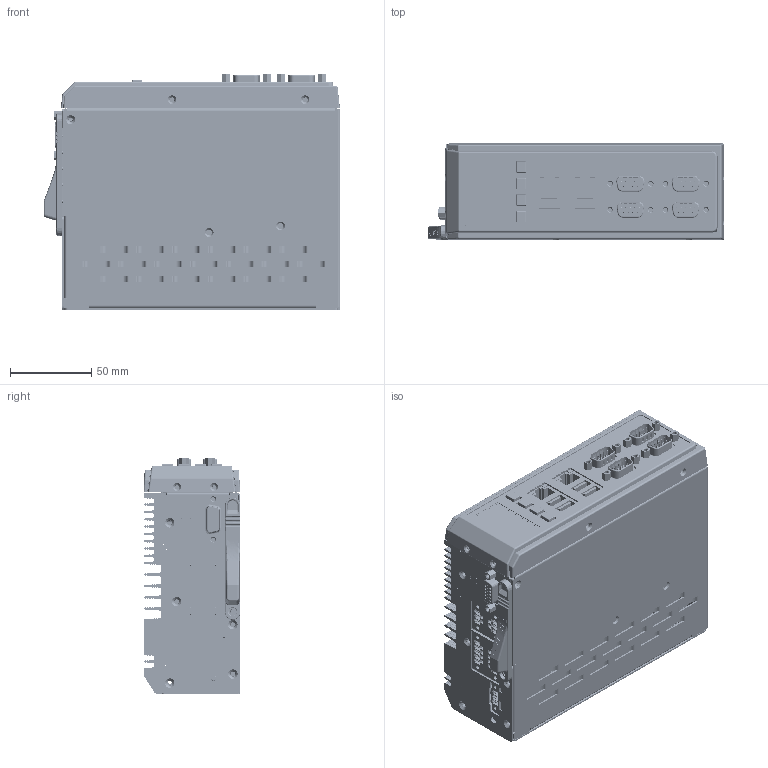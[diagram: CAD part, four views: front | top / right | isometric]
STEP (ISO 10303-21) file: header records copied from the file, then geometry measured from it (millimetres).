
FILE_DESCRIPTION (( 'STEP AP214' ), '1' );
FILE_NAME ('MC-E-xxx-002-00_cat.STEP', '2014-07-31T12:30:37', ( 'Alex.Naivelt' ), ( 'Servotronix' ), 'SwSTEP 2.0', 'SolidWorks 2009', '' );
FILE_SCHEMA (( 'AUTOMOTIVE_DESIGN' ));
Length unit declared in the file: millimetre
Products named in the file (1): MC-E-xxx-002-00_cat
Bounding box: 182.2 x 59.6 x 144.65 mm (x, y, z)
Surface area: 371779.3 mm2 (no closed solid volume)
Topology: 0 solids, 86 shells, 9249 faces, 24707 edges, 16078 vertices
Faces by surface type: plane 5044, cylinder 2845, bspline 884, cone 456, sphere 16, torus 4
Entity records: 458621 total; most frequent: CARTESIAN_POINT 131904, ORIENTED_EDGE 49372, DIRECTION 41508, EDGE_CURVE 24689, VERTEX_POINT 16078, VECTOR 15752, LINE 15752, AXIS2_PLACEMENT_3D 12878
